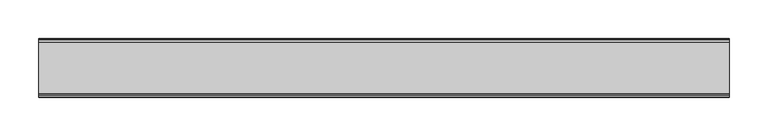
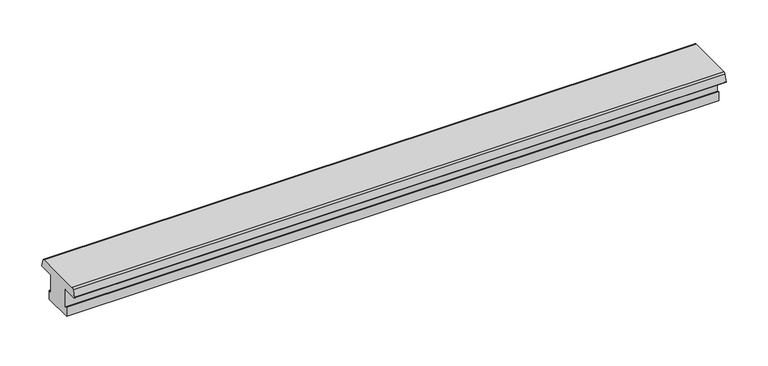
"""IFC4 building model written with IfcOpenShell, lengths in millimetres: proxy geometry, Weiku - Montante - Divisor 02.2.01.040 : Weiku - Montante - Divisor 02.2.01.040."""

import ifcopenshell
import ifcopenshell.guid

model = None  # the IFC model being written
_history = None  # IfcOwnerHistory: only IFC2X3 demands one
_inside = {}  # id of a spatial element -> (the spatial element, [elements in it])
_under = {}  # id of a project, library or spatial element -> (it, [spatial elements below it])
_declared = {}  # id of a project -> (the project, [libraries it declares])
_typed = {}  # id of a type object -> (the type object, [elements of that type])
_made_of = {}  # id of a material, layer set ... -> (it, [elements and type objects made of it])


def new_model(schema):
    """Start an empty IFC model of exactly this schema.

    Asked for "IFC4X3", IfcOpenShell would pick the latest addendum, in which some entities
    have other attributes; the version numbers below select the first issue.
    IFC2X3 requires an IfcOwnerHistory on every rooted entity: one is made here for all.
    """
    global model, _history
    if schema == "IFC4X3":
        model = ifcopenshell.file(schema_version=(4, 3, 0, 0))
    else:
        model = ifcopenshell.file(schema=schema)
    _inside.clear()
    _under.clear()
    _declared.clear()
    _typed.clear()
    _made_of.clear()
    _history = None
    if model.schema == "IFC2X3":
        org = make("IfcOrganization", Name="unknown")
        user = make(
            "IfcPersonAndOrganization",
            ThePerson=make("IfcPerson", FamilyName="unknown"),
            TheOrganization=org,
        )
        app = make(
            "IfcApplication",
            ApplicationDeveloper=org,
            Version="unknown",
            ApplicationFullName="unknown",
            ApplicationIdentifier="unknown",
        )
        _history = make(
            "IfcOwnerHistory",
            OwningUser=user,
            OwningApplication=app,
            ChangeAction="ADDED",
            CreationDate=0,
        )
    return model


def make(cls, **values):
    """One entity of the class cls with the attributes given. An attribute that is None is left unset."""
    return model.create_entity(
        cls, **{name: value for name, value in values.items() if value is not None}
    )


def rooted(cls, **values):
    """An entity with a GlobalId (a new one), such as an element, a storey or a relation."""
    return make(cls, GlobalId=ifcopenshell.guid.new(), OwnerHistory=_history, **values)


def si_unit(unit_type, name, prefix=None):
    """IfcSIUnit, for example si_unit("LENGTHUNIT", "METRE", prefix="MILLI")."""
    return make("IfcSIUnit", UnitType=unit_type, Prefix=prefix, Name=name)


def assignment(units):
    """IfcUnitAssignment: the units of a project."""
    return None if units is None else make("IfcUnitAssignment", Units=units)


def point(xyz):
    """IfcCartesianPoint."""
    return None if xyz is None else make("IfcCartesianPoint", Coordinates=xyz)


def direction(xyz):
    """IfcDirection."""
    return None if xyz is None else make("IfcDirection", DirectionRatios=xyz)


def frame(location, z_axis=None, x_axis=None):
    """IfcAxis2Placement3D, a coordinate frame: its origin and axes. An axis left out is left unset."""
    return make(
        "IfcAxis2Placement3D",
        Location=point(location),
        Axis=direction(z_axis),
        RefDirection=direction(x_axis),
    )


def frame_2d(location, x_axis=None):
    """IfcAxis2Placement2D, a coordinate frame in the plane: its origin and x axis."""
    return make(
        "IfcAxis2Placement2D", Location=point(location), RefDirection=direction(x_axis)
    )


def origin():
    """The frame at (0, 0, 0) with its axes left unset."""
    return frame((0.0, 0.0, 0.0))


def place(relative_to, where):
    """IfcLocalPlacement: puts the frame where relative to a parent placement (None: the world)."""
    return make(
        "IfcLocalPlacement", PlacementRelTo=relative_to, RelativePlacement=where
    )


def context(
    kind, dimensions, precision=None, world=None, true_north=None, identifier=None
):
    """IfcGeometricRepresentationContext, for example the 3D "Model" context."""
    return make(
        "IfcGeometricRepresentationContext",
        ContextIdentifier=identifier,
        ContextType=kind,
        CoordinateSpaceDimension=dimensions,
        Precision=precision,
        WorldCoordinateSystem=world,
        TrueNorth=true_north,
    )


def project(units=None, contexts=None):
    """IfcProject with its units and contexts."""
    return rooted(
        "IfcProject",
        Name="project",
        RepresentationContexts=contexts,
        UnitsInContext=assignment(units),
    )


def spatial(cls, under=None, at=None, **own):
    """A site, building, storey or space (cls), placed at a placement, below another one or the project."""
    s = rooted(cls, ObjectPlacement=at, **own)
    if under is not None:
        _under.setdefault(under.id(), (under, []))[1].append(s)
    return s


def polyline(points):
    """IfcPolyline through the points."""
    return make("IfcPolyline", Points=[point(p) for p in points])


def circle_curve(where, radius):
    """IfcCircle in the frame where."""
    return make("IfcCircle", Position=where, Radius=radius)


def trimmed(basis, trim1, trim2, sense, master):
    """IfcTrimmedCurve: the piece of a basis curve between two trims."""
    return make(
        "IfcTrimmedCurve",
        BasisCurve=basis,
        Trim1=trim1,
        Trim2=trim2,
        SenseAgreement=sense,
        MasterRepresentation=master,
    )


def segment(curve, same_sense, transition):
    """IfcCompositeCurveSegment."""
    return make(
        "IfcCompositeCurveSegment",
        Transition=transition,
        SameSense=same_sense,
        ParentCurve=curve,
    )


def composite_curve(segments, self_intersect=None):
    """IfcCompositeCurve: segments joined end to end."""
    return make("IfcCompositeCurve", Segments=segments, SelfIntersect=self_intersect)


def outline(outer, holes=None, kind="AREA"):
    """IfcArbitraryClosedProfileDef: a profile drawn as a closed curve; with holes, ...WithVoids."""
    if holes is None:
        return make("IfcArbitraryClosedProfileDef", ProfileType=kind, OuterCurve=outer)
    return make(
        "IfcArbitraryProfileDefWithVoids",
        ProfileType=kind,
        OuterCurve=outer,
        InnerCurves=holes,
    )


def extrude(swept, where, along, depth):
    """IfcExtrudedAreaSolid: the profile swept, set in the frame where, extruded along a direction by depth."""
    return make(
        "IfcExtrudedAreaSolid",
        SweptArea=swept,
        Position=where,
        ExtrudedDirection=direction(along),
        Depth=depth,
    )


def shape(context_of_items, identifier, shape_type, items):
    """IfcShapeRepresentation: the items that make up one representation, for example the "Body"."""
    return make(
        "IfcShapeRepresentation",
        ContextOfItems=context_of_items,
        RepresentationIdentifier=identifier,
        RepresentationType=shape_type,
        Items=items,
    )


def source(mapping_origin, context_of_items, identifier, shape_type, items):
    """IfcRepresentationMap: a shape defined once, which mapped items show again and again."""
    return make(
        "IfcRepresentationMap",
        MappingOrigin=mapping_origin,
        MappedRepresentation=shape(context_of_items, identifier, shape_type, items),
    )


def transform(
    local_origin,
    x_axis=None,
    y_axis=None,
    z_axis=None,
    scale=None,
    scale2=None,
    scale3=None,
    uniform=True,
):
    """IfcCartesianTransformationOperator3D, or its non-uniform kind. x_axis, y_axis, z_axis: its Axis1, 2, 3."""
    if uniform:
        return make(
            "IfcCartesianTransformationOperator3D",
            Axis1=direction(x_axis),
            Axis2=direction(y_axis),
            LocalOrigin=point(local_origin),
            Scale=scale,
            Axis3=direction(z_axis),
        )
    return make(
        "IfcCartesianTransformationOperator3DnonUniform",
        Axis1=direction(x_axis),
        Axis2=direction(y_axis),
        LocalOrigin=point(local_origin),
        Scale=scale,
        Axis3=direction(z_axis),
        Scale2=scale2,
        Scale3=scale3,
    )


def mapped(mapping_source, mapping_target):
    """IfcMappedItem: shows the shape of a source again, moved by a transform."""
    return make(
        "IfcMappedItem", MappingSource=mapping_source, MappingTarget=mapping_target
    )


def made_of(thing, what):
    """Note that an element or type object is made of a material, layer set ...; save() writes the relation."""
    if what is not None:
        _made_of.setdefault(what.id(), (what, []))[1].append(thing)
    return thing


def element(
    cls,
    number,
    at=None,
    inside=None,
    cuts=None,
    type_object=None,
    material=None,
    context=None,
    identifier="Body",
    shape_type=None,
    held_by="IfcProductDefinitionShape",
    body=None,
    shapes=None,
    **own,
):
    """One element of the class cls, such as IfcWall. Its Tag is "e" and its number.

    at: its placement. inside: the storey or other place that contains it. cuts: it is an
    opening in that element (IfcRelVoidsElement). A single representation is given by context,
    identifier, shape_type and body (its items); several are given by shapes. held_by: the class
    of the entity that holds the representations. save() writes the other relations.
    """
    e = rooted(cls, Tag="e%d" % number, ObjectPlacement=at, **own)
    if body is not None:
        shapes = [shape(context, identifier, shape_type, body)]
    if shapes is not None:
        e.Representation = make(held_by, Representations=shapes)
    if inside is not None:
        _inside.setdefault(inside.id(), (inside, []))[1].append(e)
    if cuts is not None:
        rooted(
            "IfcRelVoidsElement", RelatingBuildingElement=cuts, RelatedOpeningElement=e
        )
    if type_object is not None:
        _typed.setdefault(type_object.id(), (type_object, []))[1].append(e)
    return made_of(e, material)


def aggregate(whole, parts):
    """IfcRelAggregates: a whole, such as a stair, and the parts it consists of."""
    return rooted("IfcRelAggregates", RelatingObject=whole, RelatedObjects=parts)


def save(model, path):
    """Write the relations noted so far, then the file.

    IfcRelAggregates (storeys below a building ...), IfcRelContainedInSpatialStructure (elements
    in a storey), IfcRelDefinesByType, IfcRelAssociatesMaterial and IfcRelDeclares: one each for
    every whole, place, type object, material and project.
    """
    for whole, parts in _under.values():
        aggregate(whole, parts)
    for where, things in _inside.values():
        rooted(
            "IfcRelContainedInSpatialStructure",
            RelatedElements=things,
            RelatingStructure=where,
        )
    for kind, things in _typed.values():
        rooted("IfcRelDefinesByType", RelatedObjects=things, RelatingType=kind)
    for what, things in _made_of.values():
        rooted("IfcRelAssociatesMaterial", RelatedObjects=things, RelatingMaterial=what)
    for by, libraries in _declared.values():
        rooted("IfcRelDeclares", RelatingContext=by, RelatedDefinitions=libraries)
    model.write(path)


def generic_models_fcd6f85b(model_context):
    return source(origin(), model_context, "Body", "SweptSolid", [
        extrude(outline(composite_curve([segment(polyline([(-33.0007245, 50.0), (33.0007245, 50.0)]), True, "CONTINUOUS"), segment(trimmed(circle_curve(frame_2d((33.0007245, 47.0)), 3.0), [point((33.0007245, 50.0))], [point((35.898502, 47.7764571))], False, "CARTESIAN"), True, "CONTINUOUS"), segment(polyline([(35.898502, 47.7764571), (38.4496907, 38.2552914)]), True, "CONTINUOUS"), segment(trimmed(circle_curve(frame_2d((37.8701352, 38.1)), 0.6), [point((38.4496907, 38.2552914))], [point((37.8701352, 37.5))], False, "CARTESIAN"), True, "CONTINUOUS"), segment(polyline([(37.8701352, 37.5), (17.5004577, 37.5), (17.5004577, 12.168694), (20.5, 12.972419), (20.5, 0.0), (-20.5, 0.0), (-20.5, 12.972419), (-17.5004577, 12.168694), (-17.5004577, 37.5), (-37.8701352, 37.5)]), True, "CONTINUOUS"), segment(trimmed(circle_curve(frame_2d((-37.8701352, 38.1)), 0.6), [point((-37.8701352, 37.5))], [point((-38.4496907, 38.2552914))], False, "CARTESIAN"), True, "CONTINUOUS"), segment(polyline([(-38.4496907, 38.2552914), (-35.898502, 47.7764571)]), True, "CONTINUOUS"), segment(trimmed(circle_curve(frame_2d((-33.0007245, 47.0)), 3.0), [point((-35.898502, 47.7764571))], [point((-33.0007245, 50.0))], False, "CARTESIAN"), True, "CONTINUOUS")], self_intersect=False)), frame((-448.5, 0.0, 0.0), z_axis=(1.0, 0.0, 0.0), x_axis=(0.0, 1.0, 0.0)), (0.0, 0.0, 1.0), 897.0),
    ])


if __name__ == "__main__":
    model = new_model("IFC4")
    model_context = context("Model", 3, world=origin())
    ifc_project = project(units=[si_unit("LENGTHUNIT", "METRE", prefix="MILLI")], contexts=[model_context])
    site = spatial("IfcSite", under=ifc_project)
    building = spatial("IfcBuilding", under=site)
    placement = place(None, origin())
    generic_models_shape = generic_models_fcd6f85b(model_context)
    element("IfcBuildingElementProxy", 1, Name="Weiku - Montante - Divisor 02.2.01.040 : Weiku - Montante - Divisor 02.2.01.040", ObjectType="Weiku - Montante - Divisor 02.2.01.040 : Weiku - Montante - Divisor 02.2.01.040", at=placement, inside=building, context=model_context, shape_type="MappedRepresentation", body=[
        mapped(generic_models_shape, transform((0.0, 0.0, 0.0), x_axis=(1.0, 0.0, 0.0), y_axis=(0.0, 1.0, 0.0), z_axis=(0.0, 0.0, 1.0))),
    ])
    save(model, "model.ifc")
